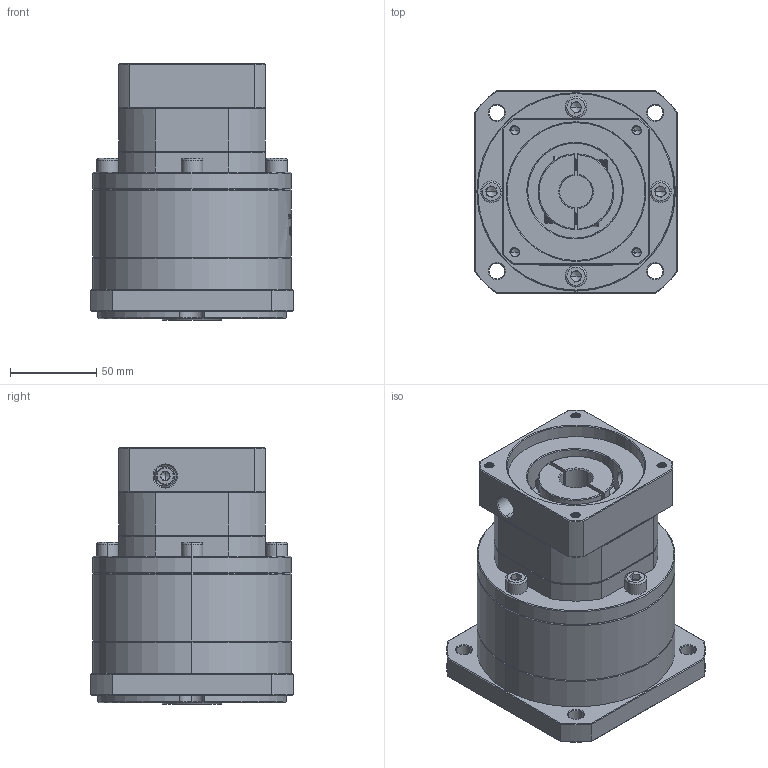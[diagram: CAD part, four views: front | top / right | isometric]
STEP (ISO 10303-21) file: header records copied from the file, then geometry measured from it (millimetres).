
FILE_DESCRIPTION (( 'STEP AP214' ), '1' );
FILE_NAME ('ZF120A-K25-L2-19-80-100-M6.step', '2023-03-07T15:03:56', ( '' ), ( 'Microsoft' ), 'SwSTEP 2.0', 'SolidWorks 2016', '' );
FILE_SCHEMA (( 'AUTOMOTIVE_DESIGN' ));
Length unit declared in the file: millimetre
Products named in the file (1): ZF120A-K25-L2-19-80-100-M6
Bounding box: 118 x 118 x 149 mm (x, y, z)
Volume: 1221656.3 mm3; surface area: 124965.7 mm2
Topology: 5 solids, 6 shells, 1881 faces, 4922 edges, 3133 vertices
Faces by surface type: plane 880, cylinder 369, bspline 312, cone 305, torus 15
Entity records: 99625 total; most frequent: CARTESIAN_POINT 36283, ORIENTED_EDGE 9788, DIRECTION 7578, EDGE_CURVE 4894, VERTEX_POINT 3133, VECTOR 2696, LINE 2696, AXIS2_PLACEMENT_3D 2441
